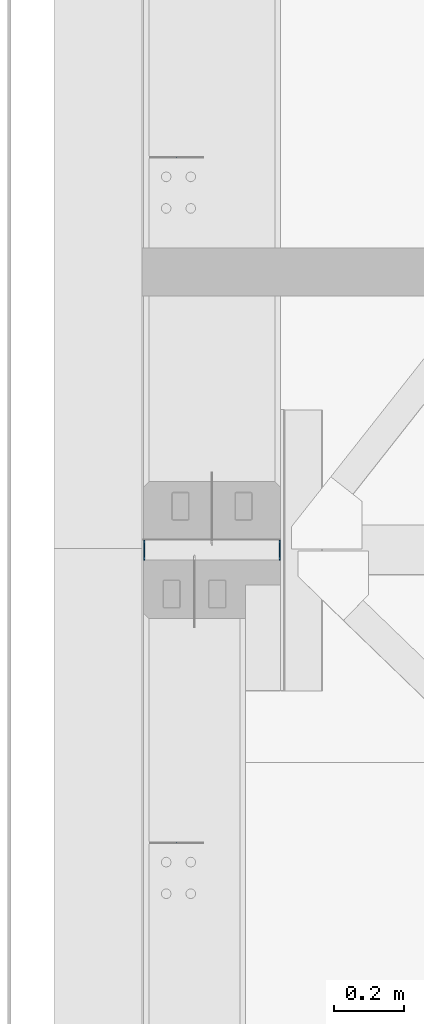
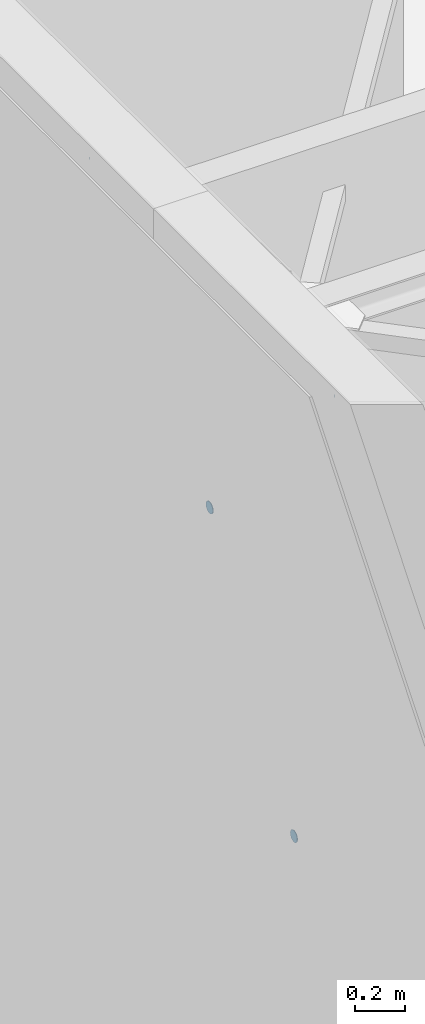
# One storey, part 63 of 186: 4 beams.
"""IFC4X3_ADD2 building model written with IfcOpenShell, lengths in millimetres."""

from ifc_helpers import new_model, si_unit, direction, frame, frame_2d, origin_with_axes, place, context, subcontext, project, spatial, indexed_curve, rectangle, outline, extrude, material, element, save


model = new_model("IFC4X3_ADD2")

# Units and contexts
model_context = context("Model", 3, precision=1e-05, world=origin_with_axes(), true_north=direction((0.0, 1.0)))
body_context = subcontext(model_context, "Body", "Model", "MODEL_VIEW")
ifc_project = project(units=[si_unit("LENGTHUNIT", "METRE", prefix="MILLI"), si_unit("AREAUNIT", "SQUARE_METRE"), si_unit("VOLUMEUNIT", "CUBIC_METRE"), si_unit("PLANEANGLEUNIT", "RADIAN"), si_unit("TIMEUNIT", "SECOND"), si_unit("MASSUNIT", "GRAM")], contexts=[model_context])

# Site, building, storey
site_placement = place(None, origin_with_axes())
site = spatial("IfcSite", under=ifc_project, at=site_placement, Name="Site", CompositionType="ELEMENT")
building_placement = place(site_placement, origin_with_axes())
building = spatial("IfcBuilding", under=site, at=building_placement, Name="IFC Building Story")
storey_placement = place(building_placement, frame((0.0, 0.0, 4370.0), z_axis=(0.0, 0.0, 1.0), x_axis=(1.0, 0.0, 0.0)))
storey = spatial("IfcBuildingStorey", under=building, at=storey_placement, Name="ETAGE 10 (1)", Elevation=4370.0)

# Beams
ifc_material_1 = material(Name="STEEL/Accessory_invisible")
for number, where, z_axis, x_axis, name in (
    (1, (33301.183164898, -6916.169744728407, 3252.45721161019), (-1.0, 0.0, 0.0), (0.0, 0.01500926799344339, 0.9998873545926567), "ZW1"),
    (2, (33301.183164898, -8868.043524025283, 3282.76421161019), (-1.0, 0.0, 0.0), (0.0, 0.01500926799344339, 0.9998873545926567), "ZW1"),
):
    element("IfcBeam", number, at=place(storey_placement, frame(where, z_axis=z_axis, x_axis=x_axis)), inside=storey, material=ifc_material_1, Name=name, ObjectType="1*1 12", context=body_context, shape_type="SweptSolid", body=[
        extrude(rectangle(XDim=10.0, YDim=1.00000000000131, at=frame_2d((0.0, 5.95523630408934e-12), x_axis=(1.0, 0.0))), origin_with_axes(), (0.0, 0.0, 1.0), 1.0),
    ])
ifc_material_2 = material(Name="STEEL/Accessory 22919")
beam_1_placement = place(storey_placement, frame((33596.188, -8035.0, 540.0), z_axis=(-1.0, 0.0, 0.0), x_axis=(0.0, 0.5555702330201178, 0.8314696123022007)))
element("IfcBeam", 3, at=beam_1_placement, inside=storey, material=ifc_material_2, Name="TA4", ObjectType="D56", context=body_context, shape_type="SweptSolid", body=[
    extrude(outline(indexed_curve([(23.28114914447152, 15.55596652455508), (27.46198785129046, 5.462529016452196), (27.46198785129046, -5.462529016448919), (23.28114914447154, -15.55596652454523), (15.55596652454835, -23.28114914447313), (5.462529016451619, -27.46198785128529), (-5.462529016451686, -27.46198785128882), (-15.55596652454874, -23.28114914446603), (-23.2811491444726, -15.55596652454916), (-27.46198785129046, -5.462529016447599), (-27.46198785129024, 5.462529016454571), (-23.28114914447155, 15.55596652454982), (-15.55596652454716, 23.28114914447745), (-5.462529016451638, 27.46198785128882), (5.462529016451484, 27.46198785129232), (15.55596652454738, 23.28114914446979), (23.28114914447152, 15.55596652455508)])), origin_with_axes(), (0.0, 0.0, 1.0), 3.0),
])
beam_2_placement = place(storey_placement, frame((33209.18799999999, -8035.0, 2270.0), z_axis=(-1.0, 0.0, 0.0), x_axis=(0.0, 0.1950903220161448, 0.9807852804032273)))
element("IfcBeam", 4, at=beam_2_placement, inside=storey, material=ifc_material_2, Name="TA4", ObjectType="D56", context=body_context, shape_type="SweptSolid", body=[
    extrude(outline(indexed_curve([(23.28114914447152, 15.55596652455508), (27.46198785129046, 5.462529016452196), (27.46198785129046, -5.462529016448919), (23.28114914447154, -15.55596652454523), (15.55596652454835, -23.28114914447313), (5.462529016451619, -27.46198785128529), (-5.462529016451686, -27.46198785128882), (-15.55596652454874, -23.28114914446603), (-23.2811491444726, -15.55596652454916), (-27.46198785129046, -5.462529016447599), (-27.46198785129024, 5.462529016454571), (-23.28114914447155, 15.55596652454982), (-15.55596652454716, 23.28114914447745), (-5.462529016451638, 27.46198785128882), (5.462529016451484, 27.46198785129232), (15.55596652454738, 23.28114914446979), (23.28114914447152, 15.55596652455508)])), origin_with_axes(), (0.0, 0.0, 1.0), 2.999999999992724),
])

save(model, "model.ifc")
